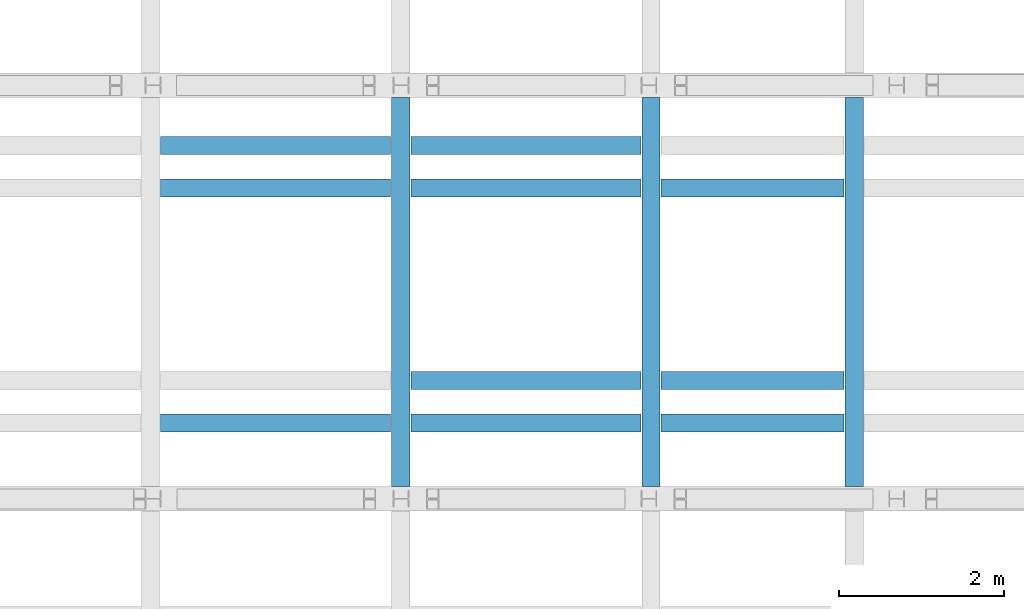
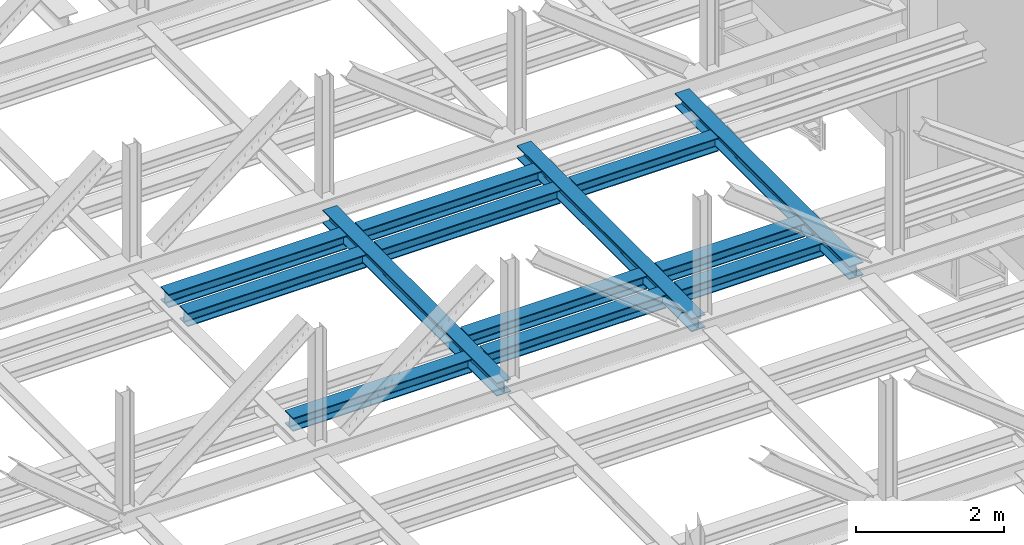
# One storey, part 18 of 29: 13 beams.
"""IFC2X3 building model written with IfcOpenShell, lengths in millimetres."""

from ifc_helpers import new_model, entity, si_unit, converted_unit, derived_unit, direction, frame, frame_2d, origin, place, context, subcontext, project, spatial, polyline, circle_curve, parameter, trimmed, segment, composite_curve, outline, extrude, material, type_object, element, save


model = new_model("IFC2X3")

# Units and contexts
model_context = context("Model", 3, precision=0.01, world=origin(), true_north=direction((6.12303176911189e-17, 1.0)))
body_context = subcontext(model_context, "Body", "Model", "MODEL_VIEW")
ifc_project = project(units=[si_unit("LENGTHUNIT", "METRE", prefix="MILLI"), si_unit("AREAUNIT", "SQUARE_METRE", prefix="MILLI"), si_unit("VOLUMEUNIT", "CUBIC_METRE"), converted_unit("PLANEANGLEUNIT", "DEGREE", entity("IfcRatioMeasure", 0.0174532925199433), si_unit("PLANEANGLEUNIT", "RADIAN"), dimensions=[0, 0, 0, 0, 0, 0, 0]), si_unit("MASSUNIT", "GRAM", prefix="KILO"), derived_unit("MASSDENSITYUNIT", [(si_unit("MASSUNIT", "GRAM", prefix="KILO"), 1), (si_unit("LENGTHUNIT", "METRE"), -3)]), derived_unit("MOMENTOFINERTIAUNIT", [(si_unit("LENGTHUNIT", "METRE"), 4)]), si_unit("TIMEUNIT", "SECOND"), si_unit("FREQUENCYUNIT", "HERTZ"), si_unit("THERMODYNAMICTEMPERATUREUNIT", "DEGREE_CELSIUS"), derived_unit("THERMALTRANSMITTANCEUNIT", [(si_unit("MASSUNIT", "GRAM", prefix="KILO"), 1), (si_unit("THERMODYNAMICTEMPERATUREUNIT", "KELVIN"), -1), (si_unit("TIMEUNIT", "SECOND"), -3)]), derived_unit("VOLUMETRICFLOWRATEUNIT", [(si_unit("LENGTHUNIT", "METRE"), 3), (si_unit("TIMEUNIT", "SECOND"), -1)]), si_unit("ELECTRICCURRENTUNIT", "AMPERE"), si_unit("ELECTRICVOLTAGEUNIT", "VOLT"), si_unit("POWERUNIT", "WATT"), si_unit("FORCEUNIT", "NEWTON", prefix="KILO"), si_unit("ILLUMINANCEUNIT", "LUX"), si_unit("LUMINOUSFLUXUNIT", "LUMEN"), si_unit("LUMINOUSINTENSITYUNIT", "CANDELA"), derived_unit("USERDEFINED", [(si_unit("MASSUNIT", "GRAM", prefix="KILO"), -1), (si_unit("LENGTHUNIT", "METRE"), -2), (si_unit("TIMEUNIT", "SECOND"), 3), (si_unit("LUMINOUSFLUXUNIT", "LUMEN"), 1)]), derived_unit("LINEARVELOCITYUNIT", [(si_unit("LENGTHUNIT", "METRE"), 1), (si_unit("TIMEUNIT", "SECOND"), -1)]), si_unit("PRESSUREUNIT", "PASCAL"), derived_unit("USERDEFINED", [(si_unit("LENGTHUNIT", "METRE"), -2), (si_unit("MASSUNIT", "GRAM", prefix="KILO"), 1), (si_unit("TIMEUNIT", "SECOND"), -2)]), derived_unit("LINEARFORCEUNIT", [(si_unit("MASSUNIT", "GRAM", prefix="KILO"), 1), (si_unit("LENGTHUNIT", "METRE"), 1), (si_unit("TIMEUNIT", "SECOND"), -2), (si_unit("LENGTHUNIT", "METRE"), -1)]), derived_unit("PLANARFORCEUNIT", [(si_unit("MASSUNIT", "GRAM", prefix="KILO"), 1), (si_unit("LENGTHUNIT", "METRE"), 1), (si_unit("TIMEUNIT", "SECOND"), -2), (si_unit("LENGTHUNIT", "METRE"), -2)])], contexts=[model_context])

# Site, building, storey
site_placement = place(None, origin())
site = spatial("IfcSite", under=ifc_project, at=site_placement, Name="Theater aan de Parade", CompositionType="ELEMENT")
building_placement = place(site_placement, origin())
building = spatial("IfcBuilding", under=site, at=building_placement, Name="Theater aan de Parade", CompositionType="ELEMENT")
storey_placement = place(building_placement, frame((0.0, 0.0, 20300.0)))
storey = spatial("IfcBuildingStorey", under=building, at=storey_placement, Name="05 vijfde verdieping", CompositionType="ELEMENT", Elevation=20300.0)

# Beams
ifc_material = material(Name="00_PBT_MAT_staal_S355")
beam_type = type_object("IfcBeamType", Name="28_PBT_SF_staal_H-profiel:S355_HE220B", PredefinedType="NOTDEFINED")
beam_1_placement = place(storey_placement, frame((76509.4104367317, 30060.0, 0.0), z_axis=(0.0, 0.0, 1.0), x_axis=(0.0, 1.0, 0.0)))
element("IfcBeam", 1, at=beam_1_placement, inside=storey, type_object=beam_type, material=ifc_material, Name="28_PBT_SF_staal_H-profiel:S355_HE220B", ObjectType="28_PBT_SF_staal_H-profiel:S355_HE220B", context=body_context, shape_type="SweptSolid", body=[
    extrude(outline(composite_curve([segment(polyline([(94.0, -110.0), (110.0, -110.0)]), True, "CONTINUOUS"), segment(polyline([(110.0, -110.0), (110.0, 110.0)]), True, "CONTINUOUS"), segment(polyline([(110.0, 110.0), (94.0, 110.0)]), True, "CONTINUOUS"), segment(polyline([(94.0, 110.0), (94.0, 22.7500000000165)]), True, "CONTINUOUS"), segment(trimmed(circle_curve(frame_2d((76.0, 22.7500000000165), x_axis=(1.0, 0.0)), 17.9999999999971), [parameter(269.999999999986)], [parameter(0.0)], True, "PARAMETER"), False, "CONTINUOUS"), segment(polyline([(76.0, 4.75000000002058), (-76.0, 4.75000000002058)]), True, "CONTINUOUS"), segment(trimmed(circle_curve(frame_2d((-76.0, 22.7500000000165), x_axis=(0.0, -1.0)), 17.9999999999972), [parameter(269.999999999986)], [parameter(0.0)], True, "PARAMETER"), False, "CONTINUOUS"), segment(polyline([(-94.0, 22.7500000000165), (-94.0, 110.0)]), True, "CONTINUOUS"), segment(polyline([(-94.0, 110.0), (-110.0, 110.0)]), True, "CONTINUOUS"), segment(polyline([(-110.0, 110.0), (-110.0, -110.0)]), True, "CONTINUOUS"), segment(polyline([(-110.0, -110.0), (-94.0, -110.0)]), True, "CONTINUOUS"), segment(polyline([(-94.0, -110.0), (-94.0, -22.7499999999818)]), True, "CONTINUOUS"), segment(trimmed(circle_curve(frame_2d((-76.0, -22.7499999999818), x_axis=(-1.0, 0.0)), 17.9999999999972), [parameter(269.999999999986)], [parameter(0.0)], True, "PARAMETER"), False, "CONTINUOUS"), segment(polyline([(-76.0, -4.74999999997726), (76.0, -4.74999999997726)]), True, "CONTINUOUS"), segment(trimmed(circle_curve(frame_2d((76.0, -22.7499999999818), x_axis=(0.0, 1.0)), 17.9999999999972), [parameter(269.999999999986)], [parameter(0.0)], True, "PARAMETER"), False, "CONTINUOUS"), segment(polyline([(94.0, -22.7499999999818), (94.0, -110.0)]), True, "CONTINUOUS")], self_intersect=False)), frame((0.0, 0.0, 2360.0), z_axis=(1.0, 0.0, 0.0), x_axis=(0.0, 0.0, -1.0)), (0.0, 0.0, 1.0), 4700.00000000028),
])
beam_2_placement = place(storey_placement, frame((79535.461881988, 30060.0, 0.0), z_axis=(0.0, 0.0, 1.0), x_axis=(0.0, 1.0, 0.0)))
element("IfcBeam", 2, at=beam_2_placement, inside=storey, type_object=beam_type, material=ifc_material, Name="28_PBT_SF_staal_H-profiel:S355_HE220B", ObjectType="28_PBT_SF_staal_H-profiel:S355_HE220B", context=body_context, shape_type="SweptSolid", body=[
    extrude(outline(composite_curve([segment(polyline([(94.0, -110.0), (110.0, -110.0)]), True, "CONTINUOUS"), segment(polyline([(110.0, -110.0), (110.0, 110.0)]), True, "CONTINUOUS"), segment(polyline([(110.0, 110.0), (94.0, 110.0)]), True, "CONTINUOUS"), segment(polyline([(94.0, 110.0), (94.0, 22.7499999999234)]), True, "CONTINUOUS"), segment(trimmed(circle_curve(frame_2d((76.0, 22.7499999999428), x_axis=(1.0, 0.0)), 17.9999999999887), [parameter(269.999999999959)], [parameter(0.0)], True, "PARAMETER"), False, "CONTINUOUS"), segment(polyline([(76.0, 4.74999999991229), (-76.0, 4.75000000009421)]), True, "CONTINUOUS"), segment(trimmed(circle_curve(frame_2d((-76.0, 22.7500000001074), x_axis=(0.0, -1.0)), 17.9999999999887), [parameter(269.999999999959)], [parameter(0.0)], True, "PARAMETER"), False, "CONTINUOUS"), segment(polyline([(-94.0, 22.7500000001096), (-94.0, 110.0)]), True, "CONTINUOUS"), segment(polyline([(-94.0, 110.0), (-110.0, 110.0)]), True, "CONTINUOUS"), segment(polyline([(-110.0, 110.0), (-110.0, -110.0)]), True, "CONTINUOUS"), segment(polyline([(-110.0, -110.0), (-94.0, -110.0)]), True, "CONTINUOUS"), segment(polyline([(-94.0, -110.0), (-94.0, -22.7499999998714)]), True, "CONTINUOUS"), segment(trimmed(circle_curve(frame_2d((-76.0, -22.7499999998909), x_axis=(-1.0, 0.0)), 17.9999999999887), [parameter(269.999999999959)], [parameter(0.0)], True, "PARAMETER"), False, "CONTINUOUS"), segment(polyline([(-76.0, -4.74999999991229), (76.0, -4.75000000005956)]), True, "CONTINUOUS"), segment(trimmed(circle_curve(frame_2d((76.0, -22.7500000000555), x_axis=(0.0, 1.0)), 17.9999999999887), [parameter(269.999999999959)], [parameter(0.0)], True, "PARAMETER"), False, "CONTINUOUS"), segment(polyline([(94.0, -22.7500000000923), (94.0, -110.0)]), True, "CONTINUOUS")], self_intersect=False)), frame((0.0, 0.0, 2360.0), z_axis=(1.0, 0.0, 0.0), x_axis=(0.0, 0.0, -1.0)), (0.0, 0.0, 1.0), 4700.00000000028),
])
beam_3_placement = place(storey_placement, frame((81995.0, 30060.0, 0.0), z_axis=(0.0, 0.0, 1.0), x_axis=(0.0, 1.0, 0.0)))
element("IfcBeam", 3, at=beam_3_placement, inside=storey, type_object=beam_type, material=ifc_material, Name="28_PBT_SF_staal_H-profiel:S355_HE220B", ObjectType="28_PBT_SF_staal_H-profiel:S355_HE220B", context=body_context, shape_type="SweptSolid", body=[
    extrude(outline(composite_curve([segment(polyline([(94.0, -110.0), (110.0, -110.0)]), True, "CONTINUOUS"), segment(polyline([(110.0, -110.0), (110.0, 110.0)]), True, "CONTINUOUS"), segment(polyline([(110.0, 110.0), (94.0, 110.0)]), True, "CONTINUOUS"), segment(polyline([(94.0, 110.0), (94.0, 22.7499999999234)]), True, "CONTINUOUS"), segment(trimmed(circle_curve(frame_2d((76.0, 22.7499999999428), x_axis=(1.0, 0.0)), 17.9999999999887), [parameter(269.999999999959)], [parameter(0.0)], True, "PARAMETER"), False, "CONTINUOUS"), segment(polyline([(76.0, 4.74999999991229), (-76.0, 4.75000000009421)]), True, "CONTINUOUS"), segment(trimmed(circle_curve(frame_2d((-76.0, 22.7500000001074), x_axis=(0.0, -1.0)), 17.9999999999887), [parameter(269.999999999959)], [parameter(0.0)], True, "PARAMETER"), False, "CONTINUOUS"), segment(polyline([(-94.0, 22.7500000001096), (-94.0, 110.0)]), True, "CONTINUOUS"), segment(polyline([(-94.0, 110.0), (-110.0, 110.0)]), True, "CONTINUOUS"), segment(polyline([(-110.0, 110.0), (-110.0, -110.0)]), True, "CONTINUOUS"), segment(polyline([(-110.0, -110.0), (-94.0, -110.0)]), True, "CONTINUOUS"), segment(polyline([(-94.0, -110.0), (-94.0, -22.7499999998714)]), True, "CONTINUOUS"), segment(trimmed(circle_curve(frame_2d((-76.0, -22.7499999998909), x_axis=(-1.0, 0.0)), 17.9999999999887), [parameter(269.999999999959)], [parameter(0.0)], True, "PARAMETER"), False, "CONTINUOUS"), segment(polyline([(-76.0, -4.74999999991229), (76.0, -4.75000000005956)]), True, "CONTINUOUS"), segment(trimmed(circle_curve(frame_2d((76.0, -22.7500000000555), x_axis=(0.0, 1.0)), 17.9999999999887), [parameter(269.999999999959)], [parameter(0.0)], True, "PARAMETER"), False, "CONTINUOUS"), segment(polyline([(94.0, -22.7500000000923), (94.0, -110.0)]), True, "CONTINUOUS")], self_intersect=False)), frame((0.0, 0.0, 2360.0), z_axis=(1.0, 0.0, 0.0), x_axis=(0.0, 0.0, -1.0)), (0.0, 0.0, 1.0), 4700.00000000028),
])
beam_4_placement = place(storey_placement, frame((76509.4104367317, 34183.5, 0.0), z_axis=(0.0, 0.0, 1.0), x_axis=(-1.0, 0.0, 0.0)))
element("IfcBeam", 4, at=beam_4_placement, inside=storey, type_object=beam_type, material=ifc_material, Name="28_PBT_SF_staal_H-profiel:S355_HE220B", ObjectType="28_PBT_SF_staal_H-profiel:S355_HE220B", context=body_context, shape_type="SweptSolid", body=[
    extrude(outline(composite_curve([segment(polyline([(94.0, -110.0), (110.0, -110.0)]), True, "CONTINUOUS"), segment(polyline([(110.0, -110.0), (110.0, 110.0)]), True, "CONTINUOUS"), segment(polyline([(110.0, 110.0), (94.0, 110.0)]), True, "CONTINUOUS"), segment(polyline([(94.0, 110.0), (94.0, 22.7500000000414)]), True, "CONTINUOUS"), segment(trimmed(circle_curve(frame_2d((76.0, 22.7500000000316), x_axis=(1.0, 0.0)), 18.0000000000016), [parameter(270.0)], [parameter(0.0)], True, "PARAMETER"), False, "CONTINUOUS"), segment(polyline([(76.0, 4.75000000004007), (-76.0, 4.74999999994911)]), True, "CONTINUOUS"), segment(trimmed(circle_curve(frame_2d((-76.0, 22.7499999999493), x_axis=(0.0, -1.0)), 18.0000000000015), [parameter(270.0)], [parameter(0.0)], True, "PARAMETER"), False, "CONTINUOUS"), segment(polyline([(-94.0, 22.7499999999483), (-94.0, 110.0)]), True, "CONTINUOUS"), segment(polyline([(-94.0, 110.0), (-110.0, 110.0)]), True, "CONTINUOUS"), segment(polyline([(-110.0, 110.0), (-110.0, -110.0)]), True, "CONTINUOUS"), segment(polyline([(-110.0, -110.0), (-94.0, -110.0)]), True, "CONTINUOUS"), segment(polyline([(-94.0, -110.0), (-94.0, -22.7500000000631)]), True, "CONTINUOUS"), segment(trimmed(circle_curve(frame_2d((-76.0, -22.7500000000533), x_axis=(-1.0, 0.0)), 17.9999999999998), [parameter(270.0)], [parameter(0.0)], True, "PARAMETER"), False, "CONTINUOUS"), segment(polyline([(-76.0, -4.7500000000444), (76.0, -4.74999999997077)]), True, "CONTINUOUS"), segment(trimmed(circle_curve(frame_2d((76.0, -22.749999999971), x_axis=(0.0, 1.0)), 18.0000000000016), [parameter(270.0)], [parameter(0.0)], True, "PARAMETER"), False, "CONTINUOUS"), segment(polyline([(94.0, -22.7499999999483), (94.0, -110.0)]), True, "CONTINUOUS")], self_intersect=False)), frame((122.699999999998, 0.0, 2360.0), z_axis=(1.0, 0.0, 0.0), x_axis=(0.0, 0.0, -1.0)), (0.0, 0.0, 1.0), 2780.65144525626),
])
beam_5_placement = place(storey_placement, frame((79535.461881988, 34183.5, 0.0), z_axis=(0.0, 0.0, 1.0), x_axis=(-1.0, 0.0, 0.0)))
element("IfcBeam", 5, at=beam_5_placement, inside=storey, type_object=beam_type, material=ifc_material, Name="28_PBT_SF_staal_H-profiel:S355_HE220B", ObjectType="28_PBT_SF_staal_H-profiel:S355_HE220B", context=body_context, shape_type="SweptSolid", body=[
    extrude(outline(composite_curve([segment(polyline([(94.0, -110.0), (110.0, -110.0)]), True, "CONTINUOUS"), segment(polyline([(110.0, -110.0), (110.0, 110.0)]), True, "CONTINUOUS"), segment(polyline([(110.0, 110.0), (94.0, 110.0)]), True, "CONTINUOUS"), segment(polyline([(94.0, 110.0), (94.0, 22.7500000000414)]), True, "CONTINUOUS"), segment(trimmed(circle_curve(frame_2d((76.0, 22.7500000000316), x_axis=(1.0, 0.0)), 18.0000000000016), [parameter(270.0)], [parameter(0.0)], True, "PARAMETER"), False, "CONTINUOUS"), segment(polyline([(76.0, 4.75000000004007), (-76.0, 4.74999999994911)]), True, "CONTINUOUS"), segment(trimmed(circle_curve(frame_2d((-76.0, 22.7499999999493), x_axis=(0.0, -1.0)), 18.0000000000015), [parameter(270.0)], [parameter(0.0)], True, "PARAMETER"), False, "CONTINUOUS"), segment(polyline([(-94.0, 22.7499999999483), (-94.0, 110.0)]), True, "CONTINUOUS"), segment(polyline([(-94.0, 110.0), (-110.0, 110.0)]), True, "CONTINUOUS"), segment(polyline([(-110.0, 110.0), (-110.0, -110.0)]), True, "CONTINUOUS"), segment(polyline([(-110.0, -110.0), (-94.0, -110.0)]), True, "CONTINUOUS"), segment(polyline([(-94.0, -110.0), (-94.0, -22.7500000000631)]), True, "CONTINUOUS"), segment(trimmed(circle_curve(frame_2d((-76.0, -22.7500000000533), x_axis=(-1.0, 0.0)), 17.9999999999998), [parameter(270.0)], [parameter(0.0)], True, "PARAMETER"), False, "CONTINUOUS"), segment(polyline([(-76.0, -4.7500000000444), (76.0, -4.74999999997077)]), True, "CONTINUOUS"), segment(trimmed(circle_curve(frame_2d((76.0, -22.749999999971), x_axis=(0.0, 1.0)), 18.0000000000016), [parameter(270.0)], [parameter(0.0)], True, "PARAMETER"), False, "CONTINUOUS"), segment(polyline([(94.0, -22.7499999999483), (94.0, -110.0)]), True, "CONTINUOUS")], self_intersect=False)), frame((122.700000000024, 0.0, 2360.0), z_axis=(1.0, 0.0, 0.0), x_axis=(0.0, 0.0, -1.0)), (0.0, 0.0, 1.0), 2780.65144525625),
])
beam_6_placement = place(storey_placement, frame((76509.4104367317, 33669.4998, 0.0), z_axis=(0.0, 0.0, 1.0), x_axis=(-1.0, 0.0, 0.0)))
element("IfcBeam", 6, at=beam_6_placement, inside=storey, type_object=beam_type, material=ifc_material, Name="28_PBT_SF_staal_H-profiel:S355_HE220B", ObjectType="28_PBT_SF_staal_H-profiel:S355_HE220B", context=body_context, shape_type="SweptSolid", body=[
    extrude(outline(composite_curve([segment(polyline([(94.0, -110.0), (110.0, -110.0)]), True, "CONTINUOUS"), segment(polyline([(110.0, -110.0), (110.0, 110.0)]), True, "CONTINUOUS"), segment(polyline([(110.0, 110.0), (94.0, 110.0)]), True, "CONTINUOUS"), segment(polyline([(94.0, 110.0), (94.0, 22.7500000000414)]), True, "CONTINUOUS"), segment(trimmed(circle_curve(frame_2d((76.0, 22.7500000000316), x_axis=(1.0, 0.0)), 18.0000000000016), [parameter(270.0)], [parameter(0.0)], True, "PARAMETER"), False, "CONTINUOUS"), segment(polyline([(76.0, 4.75000000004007), (-76.0, 4.74999999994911)]), True, "CONTINUOUS"), segment(trimmed(circle_curve(frame_2d((-76.0, 22.7499999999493), x_axis=(0.0, -1.0)), 18.0000000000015), [parameter(270.0)], [parameter(0.0)], True, "PARAMETER"), False, "CONTINUOUS"), segment(polyline([(-94.0, 22.7499999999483), (-94.0, 110.0)]), True, "CONTINUOUS"), segment(polyline([(-94.0, 110.0), (-110.0, 110.0)]), True, "CONTINUOUS"), segment(polyline([(-110.0, 110.0), (-110.0, -110.0)]), True, "CONTINUOUS"), segment(polyline([(-110.0, -110.0), (-94.0, -110.0)]), True, "CONTINUOUS"), segment(polyline([(-94.0, -110.0), (-94.0, -22.7500000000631)]), True, "CONTINUOUS"), segment(trimmed(circle_curve(frame_2d((-76.0, -22.7500000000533), x_axis=(-1.0, 0.0)), 17.9999999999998), [parameter(270.0)], [parameter(0.0)], True, "PARAMETER"), False, "CONTINUOUS"), segment(polyline([(-76.0, -4.7500000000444), (76.0, -4.74999999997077)]), True, "CONTINUOUS"), segment(trimmed(circle_curve(frame_2d((76.0, -22.749999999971), x_axis=(0.0, 1.0)), 18.0000000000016), [parameter(270.0)], [parameter(0.0)], True, "PARAMETER"), False, "CONTINUOUS"), segment(polyline([(94.0, -22.7499999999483), (94.0, -110.0)]), True, "CONTINUOUS")], self_intersect=False)), frame((122.699999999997, 0.0, 2360.0), z_axis=(1.0, 0.0, 0.0), x_axis=(0.0, 0.0, -1.0)), (0.0, 0.0, 1.0), 2780.65144525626),
])
beam_7_placement = place(storey_placement, frame((79535.461881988, 33669.4998, 0.0), z_axis=(0.0, 0.0, 1.0), x_axis=(-1.0, 0.0, 0.0)))
element("IfcBeam", 7, at=beam_7_placement, inside=storey, type_object=beam_type, material=ifc_material, Name="28_PBT_SF_staal_H-profiel:S355_HE220B", ObjectType="28_PBT_SF_staal_H-profiel:S355_HE220B", context=body_context, shape_type="SweptSolid", body=[
    extrude(outline(composite_curve([segment(polyline([(94.0, -110.0), (110.0, -110.0)]), True, "CONTINUOUS"), segment(polyline([(110.0, -110.0), (110.0, 110.0)]), True, "CONTINUOUS"), segment(polyline([(110.0, 110.0), (94.0, 110.0)]), True, "CONTINUOUS"), segment(polyline([(94.0, 110.0), (94.0, 22.7500000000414)]), True, "CONTINUOUS"), segment(trimmed(circle_curve(frame_2d((76.0, 22.7500000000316), x_axis=(1.0, 0.0)), 18.0000000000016), [parameter(270.0)], [parameter(0.0)], True, "PARAMETER"), False, "CONTINUOUS"), segment(polyline([(76.0, 4.75000000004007), (-76.0, 4.74999999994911)]), True, "CONTINUOUS"), segment(trimmed(circle_curve(frame_2d((-76.0, 22.7499999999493), x_axis=(0.0, -1.0)), 18.0000000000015), [parameter(270.0)], [parameter(0.0)], True, "PARAMETER"), False, "CONTINUOUS"), segment(polyline([(-94.0, 22.7499999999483), (-94.0, 110.0)]), True, "CONTINUOUS"), segment(polyline([(-94.0, 110.0), (-110.0, 110.0)]), True, "CONTINUOUS"), segment(polyline([(-110.0, 110.0), (-110.0, -110.0)]), True, "CONTINUOUS"), segment(polyline([(-110.0, -110.0), (-94.0, -110.0)]), True, "CONTINUOUS"), segment(polyline([(-94.0, -110.0), (-94.0, -22.7500000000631)]), True, "CONTINUOUS"), segment(trimmed(circle_curve(frame_2d((-76.0, -22.7500000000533), x_axis=(-1.0, 0.0)), 17.9999999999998), [parameter(270.0)], [parameter(0.0)], True, "PARAMETER"), False, "CONTINUOUS"), segment(polyline([(-76.0, -4.7500000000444), (76.0, -4.74999999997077)]), True, "CONTINUOUS"), segment(trimmed(circle_curve(frame_2d((76.0, -22.749999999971), x_axis=(0.0, 1.0)), 18.0000000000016), [parameter(270.0)], [parameter(0.0)], True, "PARAMETER"), False, "CONTINUOUS"), segment(polyline([(94.0, -22.7499999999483), (94.0, -110.0)]), True, "CONTINUOUS")], self_intersect=False)), frame((122.700000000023, 0.0, 2360.0), z_axis=(1.0, 0.0, 0.0), x_axis=(0.0, 0.0, -1.0)), (0.0, 0.0, 1.0), 2780.65144525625),
])
beam_8_placement = place(storey_placement, frame((81995.0, 33669.4998, 0.0), z_axis=(0.0, 0.0, 1.0), x_axis=(-1.0, 0.0, 0.0)))
element("IfcBeam", 8, at=beam_8_placement, inside=storey, type_object=beam_type, material=ifc_material, Name="28_PBT_SF_staal_H-profiel:S355_HE220B", ObjectType="28_PBT_SF_staal_H-profiel:S355_HE220B", context=body_context, shape_type="SweptSolid", body=[
    extrude(outline(composite_curve([segment(polyline([(94.0, -110.0), (110.0, -110.0)]), True, "CONTINUOUS"), segment(polyline([(110.0, -110.0), (110.0, 110.0)]), True, "CONTINUOUS"), segment(polyline([(110.0, 110.0), (94.0, 110.0)]), True, "CONTINUOUS"), segment(polyline([(94.0, 110.0), (94.0, 22.7500000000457)]), True, "CONTINUOUS"), segment(trimmed(circle_curve(frame_2d((76.0, 22.750000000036), x_axis=(1.0, 0.0)), 18.0000000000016), [parameter(270.0)], [parameter(0.0)], True, "PARAMETER"), False, "CONTINUOUS"), segment(polyline([(76.0, 4.7500000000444), (-76.0, 4.74999999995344)]), True, "CONTINUOUS"), segment(trimmed(circle_curve(frame_2d((-76.0, 22.7499999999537), x_axis=(0.0, -1.0)), 18.0000000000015), [parameter(270.0)], [parameter(0.0)], True, "PARAMETER"), False, "CONTINUOUS"), segment(polyline([(-94.0, 22.7499999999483), (-94.0, 110.0)]), True, "CONTINUOUS"), segment(polyline([(-94.0, 110.0), (-110.0, 110.0)]), True, "CONTINUOUS"), segment(polyline([(-110.0, 110.0), (-110.0, -110.0)]), True, "CONTINUOUS"), segment(polyline([(-110.0, -110.0), (-94.0, -110.0)]), True, "CONTINUOUS"), segment(polyline([(-94.0, -110.0), (-94.0, -22.7500000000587)]), True, "CONTINUOUS"), segment(trimmed(circle_curve(frame_2d((-76.0, -22.750000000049), x_axis=(-1.0, 0.0)), 17.9999999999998), [parameter(270.0)], [parameter(0.0)], True, "PARAMETER"), False, "CONTINUOUS"), segment(polyline([(-76.0, -4.75000000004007), (76.0, -4.74999999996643)]), True, "CONTINUOUS"), segment(trimmed(circle_curve(frame_2d((76.0, -22.7499999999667), x_axis=(0.0, 1.0)), 18.0000000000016), [parameter(270.0)], [parameter(0.0)], True, "PARAMETER"), False, "CONTINUOUS"), segment(polyline([(94.0, -22.7499999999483), (94.0, -110.0)]), True, "CONTINUOUS")], self_intersect=False)), frame((122.699999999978, 0.0, 2360.0), z_axis=(1.0, 0.0, 0.0), x_axis=(0.0, 0.0, -1.0)), (0.0, 0.0, 1.0), 2214.13811801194),
])
beam_9_placement = place(storey_placement, frame((79535.461881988, 31340.5, 0.0), z_axis=(0.0, 0.0, 1.0), x_axis=(-1.0, 0.0, 0.0)))
element("IfcBeam", 9, at=beam_9_placement, inside=storey, type_object=beam_type, material=ifc_material, Name="28_PBT_SF_staal_H-profiel:S355_HE220B", ObjectType="28_PBT_SF_staal_H-profiel:S355_HE220B", context=body_context, shape_type="SweptSolid", body=[
    extrude(outline(composite_curve([segment(polyline([(94.0, -110.0), (110.0, -110.0)]), True, "CONTINUOUS"), segment(polyline([(110.0, -110.0), (110.0, 110.0)]), True, "CONTINUOUS"), segment(polyline([(110.0, 110.0), (94.0, 110.0)]), True, "CONTINUOUS"), segment(polyline([(94.0, 110.0), (94.0, 22.7500000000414)]), True, "CONTINUOUS"), segment(trimmed(circle_curve(frame_2d((76.0, 22.7500000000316), x_axis=(1.0, 0.0)), 18.0000000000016), [parameter(270.0)], [parameter(0.0)], True, "PARAMETER"), False, "CONTINUOUS"), segment(polyline([(76.0, 4.75000000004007), (-76.0, 4.74999999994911)]), True, "CONTINUOUS"), segment(trimmed(circle_curve(frame_2d((-76.0, 22.7499999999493), x_axis=(0.0, -1.0)), 18.0000000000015), [parameter(270.0)], [parameter(0.0)], True, "PARAMETER"), False, "CONTINUOUS"), segment(polyline([(-94.0, 22.7499999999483), (-94.0, 110.0)]), True, "CONTINUOUS"), segment(polyline([(-94.0, 110.0), (-110.0, 110.0)]), True, "CONTINUOUS"), segment(polyline([(-110.0, 110.0), (-110.0, -110.0)]), True, "CONTINUOUS"), segment(polyline([(-110.0, -110.0), (-94.0, -110.0)]), True, "CONTINUOUS"), segment(polyline([(-94.0, -110.0), (-94.0, -22.7500000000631)]), True, "CONTINUOUS"), segment(trimmed(circle_curve(frame_2d((-76.0, -22.7500000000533), x_axis=(-1.0, 0.0)), 17.9999999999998), [parameter(270.0)], [parameter(0.0)], True, "PARAMETER"), False, "CONTINUOUS"), segment(polyline([(-76.0, -4.7500000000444), (76.0, -4.74999999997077)]), True, "CONTINUOUS"), segment(trimmed(circle_curve(frame_2d((76.0, -22.749999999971), x_axis=(0.0, 1.0)), 18.0000000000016), [parameter(270.0)], [parameter(0.0)], True, "PARAMETER"), False, "CONTINUOUS"), segment(polyline([(94.0, -22.7499999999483), (94.0, -110.0)]), True, "CONTINUOUS")], self_intersect=False)), frame((122.700000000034, 0.0, 2360.0), z_axis=(1.0, 0.0, 0.0), x_axis=(0.0, 0.0, -1.0)), (0.0, 0.0, 1.0), 2780.65144525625),
])
beam_10_placement = place(storey_placement, frame((81995.0, 31340.5, 0.0), z_axis=(0.0, 0.0, 1.0), x_axis=(-1.0, 0.0, 0.0)))
element("IfcBeam", 10, at=beam_10_placement, inside=storey, type_object=beam_type, material=ifc_material, Name="28_PBT_SF_staal_H-profiel:S355_HE220B", ObjectType="28_PBT_SF_staal_H-profiel:S355_HE220B", context=body_context, shape_type="SweptSolid", body=[
    extrude(outline(composite_curve([segment(polyline([(94.0, -110.0), (110.0, -110.0)]), True, "CONTINUOUS"), segment(polyline([(110.0, -110.0), (110.0, 110.0)]), True, "CONTINUOUS"), segment(polyline([(110.0, 110.0), (94.0, 110.0)]), True, "CONTINUOUS"), segment(polyline([(94.0, 110.0), (94.0, 22.7500000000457)]), True, "CONTINUOUS"), segment(trimmed(circle_curve(frame_2d((76.0, 22.750000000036), x_axis=(1.0, 0.0)), 18.0000000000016), [parameter(270.0)], [parameter(0.0)], True, "PARAMETER"), False, "CONTINUOUS"), segment(polyline([(76.0, 4.7500000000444), (-76.0, 4.74999999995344)]), True, "CONTINUOUS"), segment(trimmed(circle_curve(frame_2d((-76.0, 22.7499999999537), x_axis=(0.0, -1.0)), 18.0000000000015), [parameter(270.0)], [parameter(0.0)], True, "PARAMETER"), False, "CONTINUOUS"), segment(polyline([(-94.0, 22.7499999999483), (-94.0, 110.0)]), True, "CONTINUOUS"), segment(polyline([(-94.0, 110.0), (-110.0, 110.0)]), True, "CONTINUOUS"), segment(polyline([(-110.0, 110.0), (-110.0, -110.0)]), True, "CONTINUOUS"), segment(polyline([(-110.0, -110.0), (-94.0, -110.0)]), True, "CONTINUOUS"), segment(polyline([(-94.0, -110.0), (-94.0, -22.7500000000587)]), True, "CONTINUOUS"), segment(trimmed(circle_curve(frame_2d((-76.0, -22.750000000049), x_axis=(-1.0, 0.0)), 17.9999999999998), [parameter(270.0)], [parameter(0.0)], True, "PARAMETER"), False, "CONTINUOUS"), segment(polyline([(-76.0, -4.75000000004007), (76.0, -4.74999999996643)]), True, "CONTINUOUS"), segment(trimmed(circle_curve(frame_2d((76.0, -22.7499999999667), x_axis=(0.0, 1.0)), 18.0000000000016), [parameter(270.0)], [parameter(0.0)], True, "PARAMETER"), False, "CONTINUOUS"), segment(polyline([(94.0, -22.7499999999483), (94.0, -110.0)]), True, "CONTINUOUS")], self_intersect=False)), frame((122.69999999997, 0.0, 2360.0), z_axis=(1.0, 0.0, 0.0), x_axis=(0.0, 0.0, -1.0)), (0.0, 0.0, 1.0), 2214.13811801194),
])
beam_11_placement = place(storey_placement, frame((76509.4104367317, 30826.4998, 0.0), z_axis=(0.0, 0.0, 1.0), x_axis=(-1.0, 0.0, 0.0)))
element("IfcBeam", 11, at=beam_11_placement, inside=storey, type_object=beam_type, material=ifc_material, Name="28_PBT_SF_staal_H-profiel:S355_HE220B", ObjectType="28_PBT_SF_staal_H-profiel:S355_HE220B", context=body_context, shape_type="SweptSolid", body=[
    extrude(outline(composite_curve([segment(polyline([(94.0, -110.0), (110.0, -110.0)]), True, "CONTINUOUS"), segment(polyline([(110.0, -110.0), (110.0, 110.0)]), True, "CONTINUOUS"), segment(polyline([(110.0, 110.0), (94.0, 110.0)]), True, "CONTINUOUS"), segment(polyline([(94.0, 110.0), (94.0, 22.7500000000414)]), True, "CONTINUOUS"), segment(trimmed(circle_curve(frame_2d((76.0, 22.7500000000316), x_axis=(1.0, 0.0)), 18.0000000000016), [parameter(270.0)], [parameter(0.0)], True, "PARAMETER"), False, "CONTINUOUS"), segment(polyline([(76.0, 4.75000000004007), (-76.0, 4.74999999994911)]), True, "CONTINUOUS"), segment(trimmed(circle_curve(frame_2d((-76.0, 22.7499999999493), x_axis=(0.0, -1.0)), 18.0000000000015), [parameter(270.0)], [parameter(0.0)], True, "PARAMETER"), False, "CONTINUOUS"), segment(polyline([(-94.0, 22.7499999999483), (-94.0, 110.0)]), True, "CONTINUOUS"), segment(polyline([(-94.0, 110.0), (-110.0, 110.0)]), True, "CONTINUOUS"), segment(polyline([(-110.0, 110.0), (-110.0, -110.0)]), True, "CONTINUOUS"), segment(polyline([(-110.0, -110.0), (-94.0, -110.0)]), True, "CONTINUOUS"), segment(polyline([(-94.0, -110.0), (-94.0, -22.7500000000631)]), True, "CONTINUOUS"), segment(trimmed(circle_curve(frame_2d((-76.0, -22.7500000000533), x_axis=(-1.0, 0.0)), 17.9999999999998), [parameter(270.0)], [parameter(0.0)], True, "PARAMETER"), False, "CONTINUOUS"), segment(polyline([(-76.0, -4.7500000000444), (76.0, -4.74999999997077)]), True, "CONTINUOUS"), segment(trimmed(circle_curve(frame_2d((76.0, -22.749999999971), x_axis=(0.0, 1.0)), 18.0000000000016), [parameter(270.0)], [parameter(0.0)], True, "PARAMETER"), False, "CONTINUOUS"), segment(polyline([(94.0, -22.7499999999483), (94.0, -110.0)]), True, "CONTINUOUS")], self_intersect=False)), frame((122.699999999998, 0.0, 2360.0), z_axis=(1.0, 0.0, 0.0), x_axis=(0.0, 0.0, -1.0)), (0.0, 0.0, 1.0), 2780.65144525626),
])
beam_12_placement = place(storey_placement, frame((79535.461881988, 30826.4998, 0.0), z_axis=(0.0, 0.0, 1.0), x_axis=(-1.0, 0.0, 0.0)))
element("IfcBeam", 12, at=beam_12_placement, inside=storey, type_object=beam_type, material=ifc_material, Name="28_PBT_SF_staal_H-profiel:S355_HE220B", ObjectType="28_PBT_SF_staal_H-profiel:S355_HE220B", context=body_context, shape_type="SweptSolid", body=[
    extrude(outline(composite_curve([segment(polyline([(94.0, -110.0), (110.0, -110.0)]), True, "CONTINUOUS"), segment(polyline([(110.0, -110.0), (110.0, 110.0)]), True, "CONTINUOUS"), segment(polyline([(110.0, 110.0), (94.0, 110.0)]), True, "CONTINUOUS"), segment(polyline([(94.0, 110.0), (94.0, 22.7500000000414)]), True, "CONTINUOUS"), segment(trimmed(circle_curve(frame_2d((76.0, 22.7500000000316), x_axis=(1.0, 0.0)), 18.0000000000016), [parameter(270.0)], [parameter(0.0)], True, "PARAMETER"), False, "CONTINUOUS"), segment(polyline([(76.0, 4.75000000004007), (-76.0, 4.74999999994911)]), True, "CONTINUOUS"), segment(trimmed(circle_curve(frame_2d((-76.0, 22.7499999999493), x_axis=(0.0, -1.0)), 18.0000000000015), [parameter(270.0)], [parameter(0.0)], True, "PARAMETER"), False, "CONTINUOUS"), segment(polyline([(-94.0, 22.7499999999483), (-94.0, 110.0)]), True, "CONTINUOUS"), segment(polyline([(-94.0, 110.0), (-110.0, 110.0)]), True, "CONTINUOUS"), segment(polyline([(-110.0, 110.0), (-110.0, -110.0)]), True, "CONTINUOUS"), segment(polyline([(-110.0, -110.0), (-94.0, -110.0)]), True, "CONTINUOUS"), segment(polyline([(-94.0, -110.0), (-94.0, -22.7500000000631)]), True, "CONTINUOUS"), segment(trimmed(circle_curve(frame_2d((-76.0, -22.7500000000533), x_axis=(-1.0, 0.0)), 17.9999999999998), [parameter(270.0)], [parameter(0.0)], True, "PARAMETER"), False, "CONTINUOUS"), segment(polyline([(-76.0, -4.7500000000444), (76.0, -4.74999999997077)]), True, "CONTINUOUS"), segment(trimmed(circle_curve(frame_2d((76.0, -22.749999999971), x_axis=(0.0, 1.0)), 18.0000000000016), [parameter(270.0)], [parameter(0.0)], True, "PARAMETER"), False, "CONTINUOUS"), segment(polyline([(94.0, -22.7499999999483), (94.0, -110.0)]), True, "CONTINUOUS")], self_intersect=False)), frame((122.700000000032, 0.0, 2360.0), z_axis=(1.0, 0.0, 0.0), x_axis=(0.0, 0.0, -1.0)), (0.0, 0.0, 1.0), 2780.65144525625),
])
beam_13_placement = place(storey_placement, frame((81995.0, 30826.4998, 0.0), z_axis=(0.0, 0.0, 1.0), x_axis=(-1.0, 0.0, 0.0)))
element("IfcBeam", 13, at=beam_13_placement, inside=storey, type_object=beam_type, material=ifc_material, Name="28_PBT_SF_staal_H-profiel:S355_HE220B", ObjectType="28_PBT_SF_staal_H-profiel:S355_HE220B", context=body_context, shape_type="SweptSolid", body=[
    extrude(outline(composite_curve([segment(polyline([(94.0, -110.0), (110.0, -110.0)]), True, "CONTINUOUS"), segment(polyline([(110.0, -110.0), (110.0, 110.0)]), True, "CONTINUOUS"), segment(polyline([(110.0, 110.0), (94.0, 110.0)]), True, "CONTINUOUS"), segment(polyline([(94.0, 110.0), (94.0, 22.7500000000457)]), True, "CONTINUOUS"), segment(trimmed(circle_curve(frame_2d((76.0, 22.750000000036), x_axis=(1.0, 0.0)), 18.0000000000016), [parameter(270.0)], [parameter(0.0)], True, "PARAMETER"), False, "CONTINUOUS"), segment(polyline([(76.0, 4.7500000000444), (-76.0, 4.74999999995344)]), True, "CONTINUOUS"), segment(trimmed(circle_curve(frame_2d((-76.0, 22.7499999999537), x_axis=(0.0, -1.0)), 18.0000000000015), [parameter(270.0)], [parameter(0.0)], True, "PARAMETER"), False, "CONTINUOUS"), segment(polyline([(-94.0, 22.7499999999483), (-94.0, 110.0)]), True, "CONTINUOUS"), segment(polyline([(-94.0, 110.0), (-110.0, 110.0)]), True, "CONTINUOUS"), segment(polyline([(-110.0, 110.0), (-110.0, -110.0)]), True, "CONTINUOUS"), segment(polyline([(-110.0, -110.0), (-94.0, -110.0)]), True, "CONTINUOUS"), segment(polyline([(-94.0, -110.0), (-94.0, -22.7500000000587)]), True, "CONTINUOUS"), segment(trimmed(circle_curve(frame_2d((-76.0, -22.750000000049), x_axis=(-1.0, 0.0)), 17.9999999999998), [parameter(270.0)], [parameter(0.0)], True, "PARAMETER"), False, "CONTINUOUS"), segment(polyline([(-76.0, -4.75000000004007), (76.0, -4.74999999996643)]), True, "CONTINUOUS"), segment(trimmed(circle_curve(frame_2d((76.0, -22.7499999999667), x_axis=(0.0, 1.0)), 18.0000000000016), [parameter(270.0)], [parameter(0.0)], True, "PARAMETER"), False, "CONTINUOUS"), segment(polyline([(94.0, -22.7499999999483), (94.0, -110.0)]), True, "CONTINUOUS")], self_intersect=False)), frame((122.699999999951, 0.0, 2360.0), z_axis=(1.0, 0.0, 0.0), x_axis=(0.0, 0.0, -1.0)), (0.0, 0.0, 1.0), 2214.13811801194),
])

save(model, "model.ifc")
